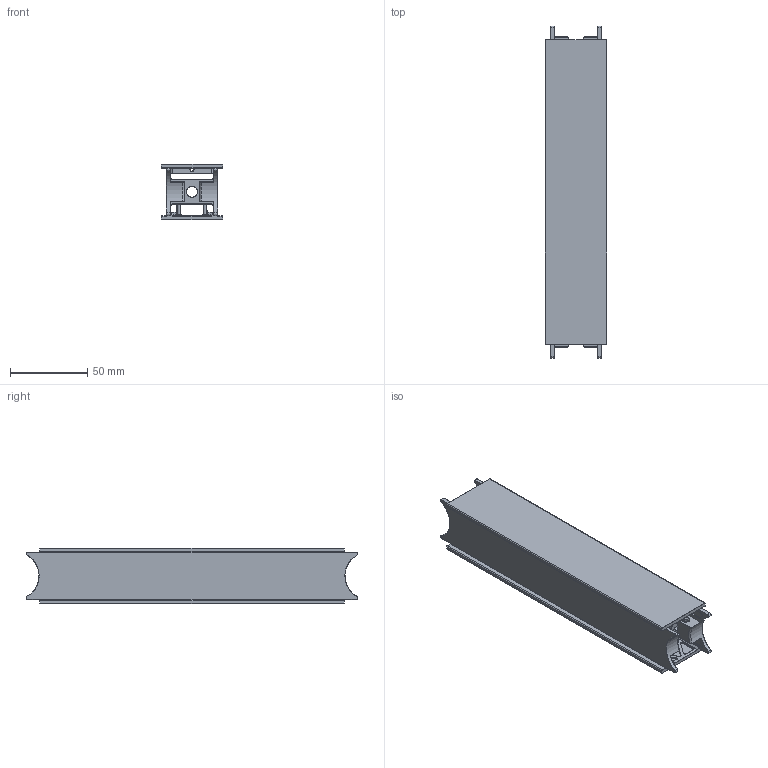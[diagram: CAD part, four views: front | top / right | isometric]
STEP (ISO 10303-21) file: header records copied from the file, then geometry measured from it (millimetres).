
FILE_DESCRIPTION (( 'STEP AP214' ), '1' );
FILE_NAME ('ACDISTBIFORXXXX.STEP', '2023-08-28T15:13:32', ( '' ), ( '' ), 'SwSTEP 2.0', 'SolidWorks 2023', '' );
FILE_SCHEMA (( 'AUTOMOTIVE_DESIGN' ));
Length unit declared in the file: millimetre
Products named in the file (5): WSCP2E0016-1400-05; ACDISTBIFORXXXX; WSCP2E0018-1400-01; WSCP2E0016-1400-03; WSCP2E0016-1400-04
Assembly tree (4 placements, depth 4):
  ACDISTBIFORXXXX
    WSCP2E0016-1400-03
      WSCP2E0016-1400-04
        WSCP2E0016-1400-05
    WSCP2E0018-1400-01
Bounding box: 40 x 214.71 x 35.95 mm (x, y, z)
Volume: 66403.1 mm3; surface area: 68422.3 mm2
Topology: 2 solids, 2 shells, 2708 faces, 6261 edges, 3552 vertices
Faces by surface type: cylinder 1193, bspline 1089, plane 426
Entity records: 100008 total; most frequent: CARTESIAN_POINT 44163, ORIENTED_EDGE 12360, DIRECTION 11097, EDGE_CURVE 6180, AXIS2_PLACEMENT_3D 4434, VERTEX_POINT 3552, EDGE_LOOP 2810, CIRCLE 2806
